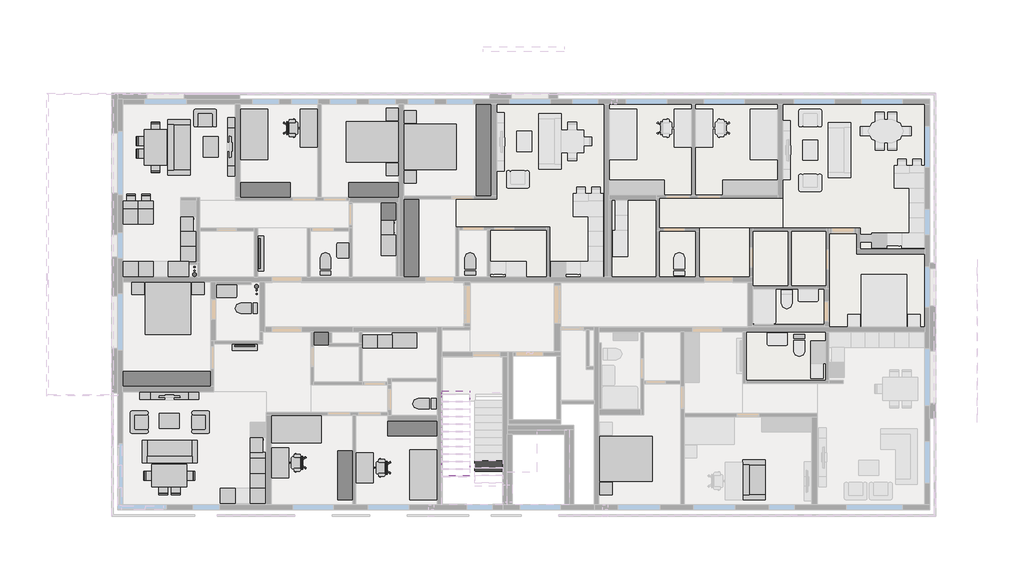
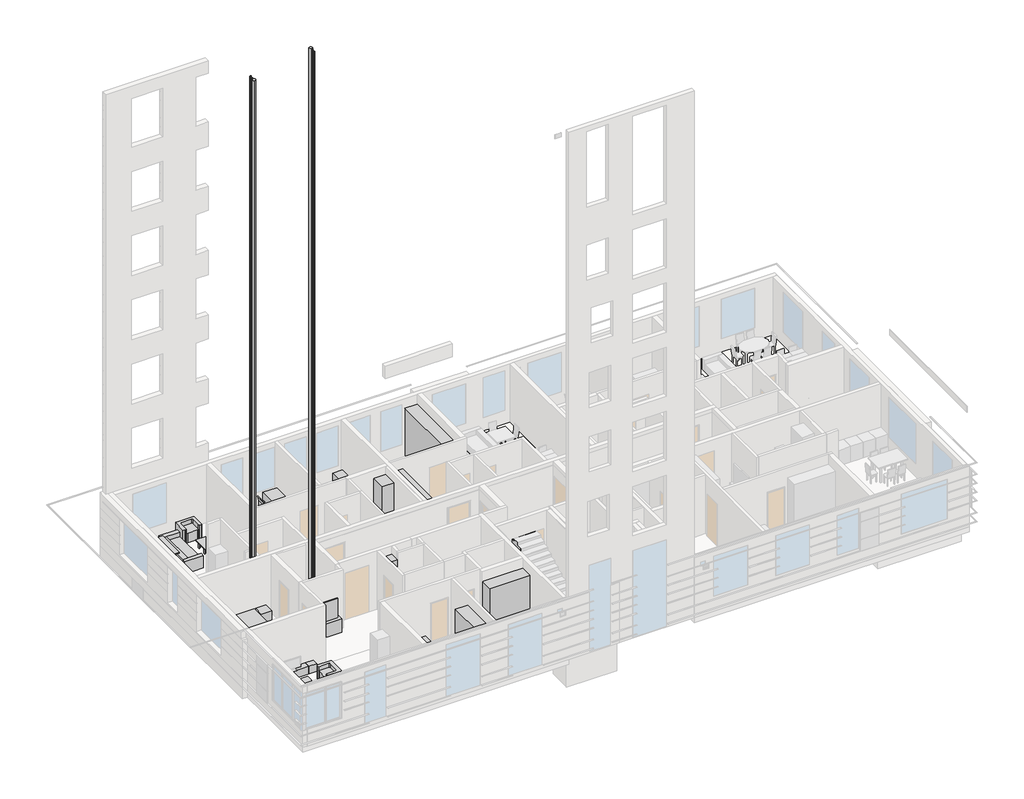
# One storey, part 9 of 11: 65 furniture elements, 17 flow terminals, 14 slabs, 2 beams.
"""IFC4 building model written with IfcOpenShell, lengths in millimetres."""

from ifc_helpers import new_model, si_unit, frame, origin, place, context, project, spatial, polyline, outline, extrude, faceted_brep, transform, mapped, element, save
from components import flow_terminal_9331744f, flow_terminal_5cad07d8, flow_terminal_b259daf1, flow_terminal_e0b5edaf, flow_terminal_e84ad2cf, flow_terminal_600x500_31c47412, flow_terminal_600x500_61b906ce, flow_terminal_600x500_6241dcfe, flow_terminal_600x600_aff60e7d, flow_terminal_600x600_852fcc23, flow_terminal_600x600_098c5d3b, flow_terminal_800x500_2e84b328, furniture_04e13bb0, furniture_0a480fd8, furniture_270331d1, furniture_84748105, furniture_1d6a48cf, furniture_af5cb44b, furniture_a4c6fd55, furniture_1200x700_3ee393f8, furniture_1200x700_5fdb5f68, furniture_1500x700_44764a8b, furniture_1600_cdebd30f, furniture_2000x900_8549b6ce, furniture_2000x900_58b30379, furniture_2100x1600_cdc592ea, furniture_2100x1800_e54d67c0, furniture_2200_2217fce5, furniture_500x2350_ca4e032f, furniture_900x1400_8099c148, furniture_900x600_407b2405, furniture_900x600_84977c98, chair_43e23103, chair_320c8197, default_57711184, default_7369cba9, default_f6d1d0e9, default_1239a132, default_f057042a, default_3f781dbd, default_6ccb14ad, default_5f957f71, default_1b38eee4, default_7911ea91, default_f59ce116, default_5d1f57f7, default_d962509c

model = new_model("IFC4")

# Units and contexts
model_context = context("Model", 3, world=origin())
ifc_project = project(units=[si_unit("LENGTHUNIT", "METRE", prefix="MILLI")], contexts=[model_context])

# Site, building, storey
site = spatial("IfcSite", under=ifc_project)
building = spatial("IfcBuilding", under=site)
storey = spatial("IfcBuildingStorey", under=building, Name="02_+4,400_Ж", Elevation=1200.0)

# Beams
placement = place(None, origin())
element("IfcBeam", 1, ObjectType="SF_марш монолитный с отделкой_3.4 : UP_300х150", at=placement, inside=storey, context=model_context, shape_type="Brep", body=[
    faceted_brep([(143230.0000002, 112492.2291223, 2620.0), (143230.0000002, 115749.9999987, 991.1145618), (144350.0000002, 115749.9999987, 991.1145618), (144350.0000002, 112492.2291223, 2620.0), (144350.0000002, 112349.9999987, 2620.0), (144350.0000002, 115749.9999987, 1170.0), (144350.0000002, 115749.9999987, 1320.0), (144350.0000002, 115449.9999987, 1320.0), (144350.0000002, 115449.9999987, 1470.0), (144350.0000002, 115149.9999987, 1470.0), (144350.0000002, 115149.9999987, 1620.0), (144350.0000002, 114849.9999987, 1620.0), (144350.0000002, 114849.9999987, 1770.0), (144350.0000002, 114549.9999987, 1770.0), (144350.0000002, 114549.9999987, 1920.0), (144350.0000002, 114249.9999987, 1920.0), (144350.0000002, 114249.9999987, 2070.0), (144350.0000002, 113949.9999987, 2070.0), (144350.0000002, 113949.9999987, 2220.0), (144350.0000002, 113649.9999987, 2220.0), (144350.0000002, 113649.9999987, 2370.0), (144350.0000002, 113349.9999987, 2370.0), (144350.0000002, 113349.9999987, 2520.0), (144350.0000002, 113049.9999987, 2520.0), (144350.0000002, 113049.9999987, 2670.0), (144350.0000002, 112749.9999987, 2670.0), (144350.0000002, 112749.9999987, 2820.0), (144350.0000002, 112449.9999987, 2820.0), (144350.0000002, 112349.9999987, 2820.0), (143230.0000002, 112349.9999987, 2820.0), (143230.0000002, 112449.9999987, 2820.0), (143230.0000002, 112749.9999987, 2820.0), (143230.0000002, 112749.9999987, 2670.0), (143230.0000002, 113049.9999987, 2670.0), (143230.0000002, 113049.9999987, 2520.0), (143230.0000002, 113349.9999987, 2520.0), (143230.0000002, 113349.9999987, 2370.0), (143230.0000002, 113649.9999987, 2370.0), (143230.0000002, 113649.9999987, 2220.0), (143230.0000002, 113949.9999987, 2220.0), (143230.0000002, 113949.9999987, 2070.0), (143230.0000002, 114249.9999987, 2070.0), (143230.0000002, 114249.9999987, 1920.0), (143230.0000002, 114549.9999987, 1920.0), (143230.0000002, 114549.9999987, 1770.0), (143230.0000002, 114849.9999987, 1770.0), (143230.0000002, 114849.9999987, 1620.0), (143230.0000002, 115149.9999987, 1620.0), (143230.0000002, 115149.9999987, 1470.0), (143230.0000002, 115449.9999987, 1470.0), (143230.0000002, 115449.9999987, 1320.0), (143230.0000002, 115749.9999987, 1320.0), (143230.0000002, 115749.9999987, 1170.0), (143230.0000002, 112349.9999987, 2620.0)], [[[0, 1, 2, 3]], [[4, 3, 2, 5, 6, 7, 8, 9, 10, 11, 12, 13, 14, 15, 16, 17, 18, 19, 20, 21, 22, 23, 24, 25, 26, 27, 28]], [[29, 30, 31, 32, 33, 34, 35, 36, 37, 38, 39, 40, 41, 42, 43, 44, 45, 46, 47, 48, 49, 50, 51, 52, 1, 0, 53]], [[3, 4, 53, 0]], [[7, 6, 51, 50]], [[50, 49, 8, 7]], [[49, 48, 9, 8]], [[48, 47, 10, 9]], [[47, 46, 11, 10]], [[46, 45, 12, 11]], [[45, 44, 13, 12]], [[44, 43, 14, 13]], [[43, 42, 15, 14]], [[42, 41, 16, 15]], [[41, 40, 17, 16]], [[40, 39, 18, 17]], [[39, 38, 19, 18]], [[38, 37, 20, 19]], [[37, 36, 21, 20]], [[36, 35, 22, 21]], [[35, 34, 23, 22]], [[34, 33, 24, 23]], [[33, 32, 25, 24]], [[32, 31, 26, 25]], [[28, 27, 26, 31, 30, 29]], [[53, 4, 28, 29]], [[1, 52, 51, 6, 5, 2]]]),
])
element("IfcBeam", 2, ObjectType="SF_марш монолитный с отделкой_3.4 : UP_300х150", at=placement, inside=storey, context=model_context, shape_type="Brep", body=[
    faceted_brep([(141910.0000001, 115867.7708751, 4200.0), (143030.0000001, 115867.7708751, 4200.0), (143030.0000001, 113149.9999987, 2841.1145618), (141910.0000001, 113149.9999987, 2841.1145618), (143030.0000001, 116019.9999987, 4400.0), (143030.0000001, 116019.9999987, 4470.0), (143030.0000001, 115749.9999987, 4470.0), (143030.0000001, 115749.9999987, 4400.0), (143030.0000001, 115749.9999987, 4320.0), (143030.0000001, 115449.9999987, 4320.0), (143030.0000001, 115449.9999987, 4170.0), (143030.0000001, 115149.9999987, 4170.0), (143030.0000001, 115149.9999987, 4020.0), (143030.0000001, 114849.9999987, 4020.0), (143030.0000001, 114849.9999987, 3870.0), (143030.0000001, 114549.9999987, 3870.0), (143030.0000001, 114549.9999987, 3720.0), (143030.0000001, 114249.9999987, 3720.0), (143030.0000001, 114249.9999987, 3570.0), (143030.0000001, 113949.9999987, 3570.0), (143030.0000001, 113949.9999987, 3420.0), (143030.0000001, 113649.9999987, 3420.0), (143030.0000001, 113649.9999987, 3270.0), (143030.0000001, 113349.9999987, 3270.0), (143030.0000001, 113349.9999987, 3120.0), (143030.0000001, 113049.9999987, 3120.0), (143030.0000001, 113049.9999987, 2970.0), (143030.0000001, 112749.9999987, 2970.0), (143030.0000001, 112749.9999987, 2820.0), (143030.0000001, 112749.9999987, 2620.0), (143030.0000001, 113149.9999987, 2620.0), (143030.0000001, 116149.9999987, 4200.0), (143030.0000001, 116149.9999987, 4400.0), (141910.0000001, 116019.9999987, 4470.0), (141910.0000001, 116019.9999987, 4400.0), (141910.0000001, 116149.9999987, 4400.0), (141910.0000001, 116149.9999987, 4200.0), (141910.0000001, 113149.9999987, 2620.0), (141910.0000001, 112749.9999987, 2620.0), (141910.0000001, 112749.9999987, 2820.0), (141910.0000001, 112749.9999987, 2970.0), (141910.0000001, 113049.9999987, 2970.0), (141910.0000001, 113049.9999987, 3120.0), (141910.0000001, 113349.9999987, 3120.0), (141910.0000001, 113349.9999987, 3270.0), (141910.0000001, 113649.9999987, 3270.0), (141910.0000001, 113649.9999987, 3420.0), (141910.0000001, 113949.9999987, 3420.0), (141910.0000001, 113949.9999987, 3570.0), (141910.0000001, 114249.9999987, 3570.0), (141910.0000001, 114249.9999987, 3720.0), (141910.0000001, 114549.9999987, 3720.0), (141910.0000001, 114549.9999987, 3870.0), (141910.0000001, 114849.9999987, 3870.0), (141910.0000001, 114849.9999987, 4020.0), (141910.0000001, 115149.9999987, 4020.0), (141910.0000001, 115149.9999987, 4170.0), (141910.0000001, 115449.9999987, 4170.0), (141910.0000001, 115449.9999987, 4320.0), (141910.0000001, 115749.9999987, 4320.0), (141910.0000001, 115749.9999987, 4470.0)], [[[0, 1, 2, 3]], [[4, 5, 6, 7, 8, 9, 10, 11, 12, 13, 14, 15, 16, 17, 18, 19, 20, 21, 22, 23, 24, 25, 26, 27, 28, 29, 30, 2, 1, 31, 32]], [[33, 34, 35, 36, 0, 3, 37, 38, 39, 40, 41, 42, 43, 44, 45, 46, 47, 48, 49, 50, 51, 52, 53, 54, 55, 56, 57, 58, 59, 60]], [[1, 0, 36, 31]], [[26, 41, 40, 27]], [[41, 26, 25, 42]], [[42, 25, 24, 43]], [[43, 24, 23, 44]], [[44, 23, 22, 45]], [[45, 22, 21, 46]], [[46, 21, 20, 47]], [[47, 20, 19, 48]], [[48, 19, 18, 49]], [[49, 18, 17, 50]], [[50, 17, 16, 51]], [[51, 16, 15, 52]], [[52, 15, 14, 53]], [[53, 14, 13, 54]], [[54, 13, 12, 55]], [[55, 12, 11, 56]], [[56, 11, 10, 57]], [[57, 10, 9, 58]], [[58, 9, 8, 59]], [[59, 8, 7, 6, 60]], [[37, 30, 29, 38]], [[5, 33, 60, 6]], [[36, 35, 32, 31]], [[30, 37, 3, 2]], [[34, 4, 32, 35]], [[5, 4, 34, 33]], [[38, 29, 28, 27, 40, 39]]]),
])

# Flow terminals
flow_terminal_shape = flow_terminal_9331744f(model_context)
element("IfcFlowTerminal", 3, ObjectType="SP_унитаз подвесной : SP_унитаз подвесной", at=placement, inside=storey, context=model_context, shape_type="MappedRepresentation", body=[
    mapped(flow_terminal_shape, transform((143040.0000001, 121029.9999987, 1200.0), x_axis=(1.0, 0.0, 0.0), y_axis=(0.0, 1.0, 0.0), z_axis=(0.0, 0.0, 1.0))),
])
element("IfcFlowTerminal", 4, ObjectType="SP_унитаз подвесной : SP_унитаз подвесной", at=placement, inside=storey, context=model_context, shape_type="MappedRepresentation", body=[
    mapped(flow_terminal_shape, transform((137265.0000001, 121029.9999987, 1200.0), x_axis=(1.0, 0.0, 0.0), y_axis=(0.0, 1.0, 0.0), z_axis=(0.0, 0.0, 1.0))),
])
flow_terminal_2_shape = flow_terminal_5cad07d8(model_context)
element("IfcFlowTerminal", 5, ObjectType="SP_унитаз подвесной : SP_унитаз подвесной", at=placement, inside=storey, context=model_context, shape_type="MappedRepresentation", body=[
    mapped(flow_terminal_2_shape, transform((141400.0000001, 115639.9999987, 1200.0), x_axis=(0.0, 1.0, 0.0), y_axis=(-1.0, 0.0, 0.0), z_axis=(0.0, 0.0, 1.0))),
])
flow_terminal_3_shape = flow_terminal_b259daf1(model_context)
element("IfcFlowTerminal", 6, ObjectType="SP_унитаз подвесной : SP_унитаз подвесной", at=placement, inside=storey, context=model_context, shape_type="MappedRepresentation", body=[
    mapped(flow_terminal_3_shape, transform((134310.0000001, 119449.9999987, 1200.0), x_axis=(0.0, 1.0, 0.0), y_axis=(-1.0, 0.0, 0.0), z_axis=(0.0, 0.0, 1.0))),
])
flow_terminal_4_shape = flow_terminal_e0b5edaf(model_context)
element("IfcFlowTerminal", 7, ObjectType="SP_Стояки : ГВ,ХВ,К", at=placement, inside=storey, context=model_context, shape_type="MappedRepresentation", body=[
    mapped(flow_terminal_4_shape, transform((132154.7596687, 120699.9999987, 0.0), x_axis=(0.0, 1.0, 0.0), y_axis=(-1.0, 0.0, 0.0), z_axis=(0.0, 0.0, 1.0))),
])
flow_terminal_5_shape = flow_terminal_e84ad2cf(model_context)
element("IfcFlowTerminal", 8, ObjectType="SP_Стояки : ГВ,ХВ,К", at=placement, inside=storey, context=model_context, shape_type="MappedRepresentation", body=[
    mapped(flow_terminal_5_shape, transform((134395.2403316, 120424.9999987, 0.0), x_axis=(0.0, -1.0, 0.0), y_axis=(1.0, 0.0, 0.0), z_axis=(0.0, 0.0, 1.0))),
])
flow_terminal_600x500_shape = flow_terminal_600x500_31c47412(model_context)
element("IfcFlowTerminal", 9, ObjectType="SP_раковина_LEG_настраиваемая : 600x500", at=placement, inside=storey, context=model_context, shape_type="MappedRepresentation", body=[
    mapped(flow_terminal_600x500_shape, transform((140417.5000001, 118474.9999987, 1200.0), x_axis=(1.0, 0.0, 0.0), y_axis=(0.0, 1.0, 0.0), z_axis=(0.0, 0.0, 1.0))),
])
flow_terminal_600x500_2_shape = flow_terminal_600x500_61b906ce(model_context)
element("IfcFlowTerminal", 10, ObjectType="SP_раковина_LEG_настраиваемая : 600x500", at=placement, inside=storey, context=model_context, shape_type="MappedRepresentation", body=[
    mapped(flow_terminal_600x500_2_shape, transform((140090.0000001, 121959.7442441, 1200.0), x_axis=(0.0, -1.0, 0.0), y_axis=(1.0, 0.0, 0.0), z_axis=(0.0, 0.0, 1.0))),
])
flow_terminal_600x500_3_shape = flow_terminal_600x500_6241dcfe(model_context)
element("IfcFlowTerminal", 11, ObjectType="SP_раковина_LEG : 600x500", at=placement, inside=storey, context=model_context, shape_type="MappedRepresentation", body=[
    mapped(flow_terminal_600x500_3_shape, transform((138215.0000001, 121766.833932, 1200.0), x_axis=(0.0, -1.0, 0.0), y_axis=(1.0, 0.0, 0.0), z_axis=(0.0, 0.0, 1.0))),
])
flow_terminal_600x600_shape = flow_terminal_600x600_aff60e7d(model_context)
element("IfcFlowTerminal", 12, ObjectType="SP_раковина кухонная_LEG : 600x600", at=placement, inside=storey, context=model_context, shape_type="MappedRepresentation", body=[
    mapped(flow_terminal_600x600_shape, transform((132085.0000001, 121924.9999987, 1200.0), x_axis=(0.0, -1.0, 0.0), y_axis=(1.0, 0.0, 0.0), z_axis=(0.0, 0.0, 1.0))),
])
element("IfcFlowTerminal", 13, ObjectType="SP_раковина кухонная_LEG : 600x600", at=placement, inside=storey, context=model_context, shape_type="MappedRepresentation", body=[
    mapped(flow_terminal_600x600_shape, transform((134865.0000001, 112851.5441709, 1200.0), x_axis=(0.0, -1.0, 0.0), y_axis=(1.0, 0.0, 0.0), z_axis=(0.0, 0.0, 1.0))),
])
flow_terminal_600x600_2_shape = flow_terminal_600x600_852fcc23(model_context)
element("IfcFlowTerminal", 14, ObjectType="SP_стиральная машина_LEG : 600x600", at=placement, inside=storey, context=model_context, shape_type="MappedRepresentation", body=[
    mapped(flow_terminal_600x600_2_shape, transform((139030.0000001, 118474.9999987, 1200.0), x_axis=(-1.0, 0.0, 0.0), y_axis=(0.0, -1.0, 0.0), z_axis=(0.0, 0.0, 1.0))),
])
element("IfcFlowTerminal", 15, ObjectType="SP_стиральная машина_LEG : 600x600", at=placement, inside=storey, context=model_context, shape_type="MappedRepresentation", body=[
    mapped(flow_terminal_600x600_2_shape, transform((139630.0000001, 118474.9999987, 1200.0), x_axis=(-1.0, 0.0, 0.0), y_axis=(0.0, -1.0, 0.0), z_axis=(0.0, 0.0, 1.0))),
])
element("IfcFlowTerminal", 16, ObjectType="SP_стиральная машина_LEG : 600x600", at=placement, inside=storey, context=model_context, shape_type="MappedRepresentation", body=[
    mapped(flow_terminal_600x600_2_shape, transform((140090.0000001, 122669.9999987, 1200.0), x_axis=(0.0, 1.0, 0.0), y_axis=(-1.0, 0.0, 0.0), z_axis=(0.0, 0.0, 1.0))),
])
flow_terminal_600x600_3_shape = flow_terminal_600x600_098c5d3b(model_context)
element("IfcFlowTerminal", 17, ObjectType="SP_посудомоечная машина_LEG : 600x600", at=placement, inside=storey, context=model_context, shape_type="MappedRepresentation", body=[
    mapped(flow_terminal_600x600_3_shape, transform((132085.0000001, 122824.9999987, 1200.0), x_axis=(0.0, 1.0, 0.0), y_axis=(-1.0, 0.0, 0.0), z_axis=(0.0, 0.0, 1.0))),
])
element("IfcFlowTerminal", 18, ObjectType="SP_посудомоечная машина_LEG : 600x600", at=placement, inside=storey, context=model_context, shape_type="MappedRepresentation", body=[
    mapped(flow_terminal_600x600_3_shape, transform((134865.0000001, 113999.9999987, 1200.0), x_axis=(0.0, 1.0, 0.0), y_axis=(-1.0, 0.0, 0.0), z_axis=(0.0, 0.0, 1.0))),
])
flow_terminal_800x500_shape = flow_terminal_800x500_2e84b328(model_context)
element("IfcFlowTerminal", 19, ObjectType="SP_раковина_LEG : 800x500", at=placement, inside=storey, context=model_context, shape_type="MappedRepresentation", body=[
    mapped(flow_terminal_800x500_shape, transform((133315.0000001, 120374.9999987, 1200.0), x_axis=(1.0, 0.0, 0.0), y_axis=(0.0, 1.0, 0.0), z_axis=(0.0, 0.0, 1.0))),
])

# Furniture
furniture_shape = furniture_04e13bb0(model_context)
element("IfcFurniture", 20, ObjectType="Fu_журнальный_столик_прямоугольный_LEG : 600Х800", at=placement, inside=storey, context=model_context, shape_type="MappedRepresentation", body=[
    mapped(furniture_shape, transform((131035.0000001, 115504.9999987, 1200.0), x_axis=(0.0, 1.0, 0.0), y_axis=(-1.0, 0.0, 0.0), z_axis=(0.0, 0.0, 1.0))),
])
element("IfcFurniture", 21, ObjectType="Fu_журнальный_столик_прямоугольный_LEG : 600Х800", at=placement, inside=storey, context=model_context, shape_type="MappedRepresentation", body=[
    mapped(furniture_shape, transform((133230.0000001, 125899.9999987, 1200.0), x_axis=(1.0, 0.0, 0.0), y_axis=(0.0, 1.0, 0.0), z_axis=(0.0, 0.0, 1.0))),
])
furniture_2_shape = furniture_0a480fd8(model_context)
element("IfcFurniture", 22, ObjectType="Fu_трюмо_LEG : 1400Х250", at=placement, inside=storey, context=model_context, shape_type="MappedRepresentation", body=[
    mapped(furniture_2_shape, transform((134555.0000001, 122339.9999987, 1200.0), x_axis=(0.0, -1.0, 0.0), y_axis=(1.0, 0.0, 0.0), z_axis=(0.0, 0.0, 1.0))),
])
furniture_3_shape = furniture_270331d1(model_context)
element("IfcFurniture", 23, ObjectType="Fu_шкаф 1-с : Шкаф 1-створчатый", at=placement, inside=storey, context=model_context, shape_type="MappedRepresentation", body=[
    mapped(furniture_3_shape, transform((139490.0000001, 122969.9999987, 1200.0), x_axis=(1.0, 0.0, 0.0), y_axis=(0.0, 1.0, 0.0), z_axis=(0.0, 0.0, 1.0))),
])
furniture_4_shape = furniture_84748105(model_context)
element("IfcFurniture", 24, ObjectType="Fu_трюмо_LEG : 1000Х250", at=placement, inside=storey, context=model_context, shape_type="MappedRepresentation", body=[
    mapped(furniture_4_shape, transform((133540.0000001, 118024.9999987, 1200.0), x_axis=(1.0, 0.0, 0.0), y_axis=(0.0, 1.0, 0.0), z_axis=(0.0, 0.0, 1.0))),
])
furniture_5_shape = furniture_1d6a48cf(model_context)
element("IfcFurniture", 25, ObjectType="Fu_шкаф 1-с : Шкаф 1-створчатый", at=placement, inside=storey, context=model_context, shape_type="MappedRepresentation", body=[
    mapped(furniture_5_shape, transform((136805.0000001, 118479.9999987, 1200.0), x_axis=(1.0, 0.0, 0.0), y_axis=(0.0, 1.0, 0.0), z_axis=(0.0, 0.0, 1.0))),
])
furniture_6_shape = furniture_af5cb44b(model_context)
element("IfcFurniture", 26, ObjectType="Fu_тумба прикроватная_LEG : 500х500", at=placement, inside=storey, context=model_context, shape_type="MappedRepresentation", body=[
    mapped(furniture_6_shape, transform((132180.0000001, 120249.9999987, 1200.0), x_axis=(1.0, 0.0, 0.0), y_axis=(0.0, 1.0, 0.0), z_axis=(0.0, 0.0, 1.0))),
])
element("IfcFurniture", 27, ObjectType="Fu_тумба прикроватная_LEG : 500х500", at=placement, inside=storey, context=model_context, shape_type="MappedRepresentation", body=[
    mapped(furniture_6_shape, transform((139940.0000001, 124999.9999987, 1200.0), x_axis=(0.0, -1.0, 0.0), y_axis=(1.0, 0.0, 0.0), z_axis=(0.0, 0.0, 1.0))),
])
element("IfcFurniture", 28, ObjectType="Fu_тумба прикроватная_LEG : 500х500", at=placement, inside=storey, context=model_context, shape_type="MappedRepresentation", body=[
    mapped(furniture_6_shape, transform((140640.0000001, 127099.9999987, 1200.0), x_axis=(0.0, 1.0, 0.0), y_axis=(-1.0, 0.0, 0.0), z_axis=(0.0, 0.0, 1.0))),
])
furniture_7_shape = furniture_a4c6fd55(model_context)
element("IfcFurniture", 29, ObjectType="Fu_тумба прикроватная_LEG : 500х500", at=placement, inside=storey, context=model_context, shape_type="MappedRepresentation", body=[
    mapped(furniture_7_shape, transform((129780.0000001, 120249.9999987, 1200.0), x_axis=(-1.0, 0.0, 0.0), y_axis=(0.0, -1.0, 0.0), z_axis=(0.0, 0.0, 1.0))),
])
element("IfcFurniture", 30, ObjectType="Fu_тумба прикроватная_LEG : 500х500", at=placement, inside=storey, context=model_context, shape_type="MappedRepresentation", body=[
    mapped(furniture_7_shape, transform((139940.0000001, 127199.9999987, 1200.0), x_axis=(0.0, 1.0, 0.0), y_axis=(-1.0, 0.0, 0.0), z_axis=(0.0, 0.0, 1.0))),
])
element("IfcFurniture", 31, ObjectType="Fu_тумба прикроватная_LEG : 500х500", at=placement, inside=storey, context=model_context, shape_type="MappedRepresentation", body=[
    mapped(furniture_7_shape, transform((140640.0000001, 124699.9999987, 1200.0), x_axis=(0.0, -1.0, 0.0), y_axis=(1.0, 0.0, 0.0), z_axis=(0.0, 0.0, 1.0))),
])
element("IfcFurniture", 32, ObjectType="Fu_тумба прикроватная_LEG : 500х500", at=placement, inside=storey, context=model_context, shape_type="MappedRepresentation", body=[
    mapped(furniture_7_shape, transform((148460.0000001, 112239.9999987, 1200.0), x_axis=(0.0, -1.0, 0.0), y_axis=(1.0, 0.0, 0.0), z_axis=(0.0, 0.0, 1.0))),
])
furniture_1200x700_shape = furniture_1200x700_3ee393f8(model_context)
element("IfcFurniture", 33, ObjectType="Fu_стол рабочий : 1200x700", at=placement, inside=storey, context=model_context, shape_type="MappedRepresentation", body=[
    mapped(furniture_1200x700_shape, transform((136721.7939625, 113506.5981067, 1200.0), x_axis=(0.0, 1.0, 0.0), y_axis=(-1.0, 0.0, 0.0), z_axis=(0.0, 0.0, 1.0))),
])
furniture_1200x700_2_shape = furniture_1200x700_5fdb5f68(model_context)
element("IfcFurniture", 34, ObjectType="Fu_стол рабочий : 1200x700", at=placement, inside=storey, context=model_context, shape_type="MappedRepresentation", body=[
    mapped(furniture_1200x700_2_shape, transform((140096.7939625, 112854.0365854, 1200.0), x_axis=(0.0, -1.0, 0.0), y_axis=(1.0, 0.0, 0.0), z_axis=(0.0, 0.0, 1.0))),
])
furniture_1500x700_shape = furniture_1500x700_44764a8b(model_context)
element("IfcFurniture", 35, ObjectType="Fu_стол рабочий : 1500x700", at=placement, inside=storey, context=model_context, shape_type="MappedRepresentation", body=[
    mapped(furniture_1500x700_shape, transform((135348.2060378, 126423.4018907, 1200.0), x_axis=(0.0, -1.0, 0.0), y_axis=(1.0, 0.0, 0.0), z_axis=(0.0, 0.0, 1.0))),
])
furniture_1600_shape = furniture_1600_cdebd30f(model_context)
element("IfcFurniture", 36, ObjectType="Fu_диван_LEG : 1600", at=placement, inside=storey, context=model_context, shape_type="MappedRepresentation", body=[
    mapped(furniture_1600_shape, transform((154843.7770493, 111726.6262282, 1200.0), x_axis=(0.0, 1.0, 0.0), y_axis=(-1.0, 0.0, 0.0), z_axis=(0.0, 0.0, 1.0))),
])
furniture_2000x900_shape = furniture_2000x900_8549b6ce(model_context)
element("IfcFurniture", 37, ObjectType="Fu_кровать x1_LEG : 2000x900", at=placement, inside=storey, context=model_context, shape_type="MappedRepresentation", body=[
    mapped(furniture_2000x900_shape, transform((141630.0000001, 112565.5704905, 1200.0), x_axis=(1.0, 0.0, 0.0), y_axis=(0.0, 1.0, 0.0), z_axis=(0.0, 0.0, 1.0))),
])
element("IfcFurniture", 38, ObjectType="Fu_кровать x1_LEG : 2000x900", at=placement, inside=storey, context=model_context, shape_type="MappedRepresentation", body=[
    mapped(furniture_2000x900_shape, transform((133965.0000001, 126634.4295069, 1200.0), x_axis=(-1.0, 0.0, 0.0), y_axis=(0.0, -1.0, 0.0), z_axis=(0.0, 0.0, 1.0))),
])
furniture_2000x900_2_shape = furniture_2000x900_58b30379(model_context)
element("IfcFurniture", 39, ObjectType="Fu_кровать x1_LEG : 2000x900", at=placement, inside=storey, context=model_context, shape_type="MappedRepresentation", body=[
    mapped(furniture_2000x900_2_shape, transform((135870.570492, 115079.9999987, 1200.0), x_axis=(0.0, 1.0, 0.0), y_axis=(-1.0, 0.0, 0.0), z_axis=(0.0, 0.0, 1.0))),
])
furniture_2100x1600_shape = furniture_2100x1600_cdc592ea(model_context)
element("IfcFurniture", 40, ObjectType="Fu_кровать x2_LEG : 2100x1600", at=placement, inside=storey, context=model_context, shape_type="MappedRepresentation", body=[
    mapped(furniture_2100x1600_shape, transform((139374.4295083, 126099.9999987, 1200.0), x_axis=(0.0, -1.0, 0.0), y_axis=(1.0, 0.0, 0.0), z_axis=(0.0, 0.0, 1.0))),
])
furniture_2100x1800_shape = furniture_2100x1800_e54d67c0(model_context)
element("IfcFurniture", 41, ObjectType="Fu_кровать x2_LEG : 2100x1800", at=placement, inside=storey, context=model_context, shape_type="MappedRepresentation", body=[
    mapped(furniture_2100x1800_shape, transform((130980.0000001, 119684.4295069, 1200.0), x_axis=(1.0, 0.0, 0.0), y_axis=(0.0, 1.0, 0.0), z_axis=(0.0, 0.0, 1.0))),
])
element("IfcFurniture", 42, ObjectType="Fu_кровать x2_LEG : 2100x1800", at=placement, inside=storey, context=model_context, shape_type="MappedRepresentation", body=[
    mapped(furniture_2100x1800_shape, transform((141205.5704919, 125899.9999987, 1200.0), x_axis=(0.0, 1.0, 0.0), y_axis=(-1.0, 0.0, 0.0), z_axis=(0.0, 0.0, 1.0))),
])
element("IfcFurniture", 43, ObjectType="Fu_кровать x2_LEG : 2100x1800", at=placement, inside=storey, context=model_context, shape_type="MappedRepresentation", body=[
    mapped(furniture_2100x1800_shape, transform((149025.570492, 113439.9999987, 1200.0), x_axis=(0.0, 1.0, 0.0), y_axis=(-1.0, 0.0, 0.0), z_axis=(0.0, 0.0, 1.0))),
])
furniture_2200_shape = furniture_2200_2217fce5(model_context)
element("IfcFurniture", 44, ObjectType="Fu_диван_LEG : 2200", at=placement, inside=storey, context=model_context, shape_type="MappedRepresentation", body=[
    mapped(furniture_2200_shape, transform((131928.3737706, 114196.7770479, 1200.0), x_axis=(-1.0, 0.0, 0.0), y_axis=(0.0, -1.0, 0.0), z_axis=(0.0, 0.0, 1.0))),
])
element("IfcFurniture", 45, ObjectType="Fu_диван_LEG : 2200", at=placement, inside=storey, context=model_context, shape_type="MappedRepresentation", body=[
    mapped(furniture_2200_shape, transform((131884.2770493, 125006.6262282, 1200.0), x_axis=(0.0, 1.0, 0.0), y_axis=(-1.0, 0.0, 0.0), z_axis=(0.0, 0.0, 1.0))),
])
furniture_500x2350_shape = furniture_500x2350_ca4e032f(model_context)
element("IfcFurniture", 46, ObjectType="Fu_TV+тумба_LEG : 500x2350", at=placement, inside=storey, context=model_context, shape_type="MappedRepresentation", body=[
    mapped(furniture_500x2350_shape, transform((131261.5981081, 115198.2229495, 1200.0), x_axis=(1.0, 0.0, 0.0), y_axis=(0.0, 1.0, 0.0), z_axis=(0.0, 0.0, 1.0))),
])
element("IfcFurniture", 47, ObjectType="Fu_TV+тумба_LEG : 500x2350", at=placement, inside=storey, context=model_context, shape_type="MappedRepresentation", body=[
    mapped(furniture_500x2350_shape, transform((132743.222951, 125673.4018907, 1200.0), x_axis=(0.0, -1.0, 0.0), y_axis=(1.0, 0.0, 0.0), z_axis=(0.0, 0.0, 1.0))),
])
furniture_900x1400_shape = furniture_900x1400_8099c148(model_context)
element("IfcFurniture", 48, ObjectType="Fu_кухонный стол_LEG : 900x1400", at=placement, inside=storey, context=model_context, shape_type="MappedRepresentation", body=[
    mapped(furniture_900x1400_shape, transform((130736.171258, 112760.2677148, 1200.0), x_axis=(-1.0, 0.0, 0.0), y_axis=(0.0, -1.0, 0.0), z_axis=(0.0, 0.0, 1.0))),
])
element("IfcFurniture", 49, ObjectType="Fu_кухонный стол_LEG : 900x1400", at=placement, inside=storey, context=model_context, shape_type="MappedRepresentation", body=[
    mapped(furniture_900x1400_shape, transform((130480.0000001, 126179.9999987, 1200.0), x_axis=(0.0, 1.0, 0.0), y_axis=(-1.0, 0.0, 0.0), z_axis=(0.0, 0.0, 1.0))),
])
furniture_900x600_shape = furniture_900x600_407b2405(model_context)
element("IfcFurniture", 50, ObjectType="Fu_кресло_большое_LEG : 900x600", at=placement, inside=storey, context=model_context, shape_type="MappedRepresentation", body=[
    mapped(furniture_900x600_shape, transform((132080.0736389, 115014.2999987, 1200.0), x_axis=(0.0, -1.0, 0.0), y_axis=(1.0, 0.0, 0.0), z_axis=(0.0, 0.0, 1.0))),
])
element("IfcFurniture", 51, ObjectType="Fu_кресло_большое_LEG : 900x600", at=placement, inside=storey, context=model_context, shape_type="MappedRepresentation", body=[
    mapped(furniture_900x600_shape, transform((132345.7000001, 126850.0736374, 1200.0), x_axis=(1.0, 0.0, 0.0), y_axis=(0.0, 1.0, 0.0), z_axis=(0.0, 0.0, 1.0))),
])
furniture_900x600_2_shape = furniture_900x600_84977c98(model_context)
element("IfcFurniture", 52, ObjectType="Fu_кресло_большое_LEG : 900x600", at=placement, inside=storey, context=model_context, shape_type="MappedRepresentation", body=[
    mapped(furniture_900x600_2_shape, transform((130029.9263614, 115014.2999987, 1200.0), x_axis=(0.0, -1.0, 0.0), y_axis=(1.0, 0.0, 0.0), z_axis=(0.0, 0.0, 1.0))),
])
chair_shape = chair_43e23103(model_context)
element("IfcFurniture", 53, ObjectType="Fu_стул_LEG : chair", at=placement, inside=storey, context=model_context, shape_type="MappedRepresentation", body=[
    mapped(chair_shape, transform((131872.6897722, 112732.0677148, 1200.0), x_axis=(0.0, -1.0, 0.0), y_axis=(1.0, 0.0, 0.0), z_axis=(0.0, 0.0, 1.0))),
])
element("IfcFurniture", 54, ObjectType="Fu_стул_LEG : chair", at=placement, inside=storey, context=model_context, shape_type="MappedRepresentation", body=[
    mapped(chair_shape, transform((131257.971258, 112173.7492006, 1200.0), x_axis=(-1.0, 0.0, 0.0), y_axis=(0.0, -1.0, 0.0), z_axis=(0.0, 0.0, 1.0))),
])
element("IfcFurniture", 55, ObjectType="Fu_стул_LEG : chair", at=placement, inside=storey, context=model_context, shape_type="MappedRepresentation", body=[
    mapped(chair_shape, transform((130757.971258, 112173.7492006, 1200.0), x_axis=(-1.0, 0.0, 0.0), y_axis=(0.0, -1.0, 0.0), z_axis=(0.0, 0.0, 1.0))),
])
element("IfcFurniture", 56, ObjectType="Fu_стул_LEG : chair", at=placement, inside=storey, context=model_context, shape_type="MappedRepresentation", body=[
    mapped(chair_shape, transform((130451.8000001, 125043.4814846, 1200.0), x_axis=(-1.0, 0.0, 0.0), y_axis=(0.0, -1.0, 0.0), z_axis=(0.0, 0.0, 1.0))),
])
element("IfcFurniture", 57, ObjectType="Fu_стул_LEG : chair", at=placement, inside=storey, context=model_context, shape_type="MappedRepresentation", body=[
    mapped(chair_shape, transform((129893.481486, 125658.1999987, 1200.0), x_axis=(0.0, 1.0, 0.0), y_axis=(-1.0, 0.0, 0.0), z_axis=(0.0, 0.0, 1.0))),
])
element("IfcFurniture", 58, ObjectType="Fu_стул_LEG : chair", at=placement, inside=storey, context=model_context, shape_type="MappedRepresentation", body=[
    mapped(chair_shape, transform((129893.481486, 126158.1999987, 1200.0), x_axis=(0.0, 1.0, 0.0), y_axis=(-1.0, 0.0, 0.0), z_axis=(0.0, 0.0, 1.0))),
])
chair_2_shape = chair_320c8197(model_context)
element("IfcFurniture", 59, ObjectType="Fu_стул_LEG : chair", at=placement, inside=storey, context=model_context, shape_type="MappedRepresentation", body=[
    mapped(chair_2_shape, transform((130199.6527439, 112732.0677148, 1200.0), x_axis=(0.0, -1.0, 0.0), y_axis=(1.0, 0.0, 0.0), z_axis=(0.0, 0.0, 1.0))),
])
element("IfcFurniture", 60, ObjectType="Fu_стул_LEG : chair", at=placement, inside=storey, context=model_context, shape_type="MappedRepresentation", body=[
    mapped(chair_2_shape, transform((129471.8000001, 123834.9999987, 1200.0), x_axis=(-1.0, 0.0, 0.0), y_axis=(0.0, -1.0, 0.0), z_axis=(0.0, 0.0, 1.0))),
])
element("IfcFurniture", 61, ObjectType="Fu_стул_LEG : chair", at=placement, inside=storey, context=model_context, shape_type="MappedRepresentation", body=[
    mapped(chair_2_shape, transform((130071.8000001, 123834.9999987, 1200.0), x_axis=(-1.0, 0.0, 0.0), y_axis=(0.0, -1.0, 0.0), z_axis=(0.0, 0.0, 1.0))),
])
element("IfcFurniture", 62, ObjectType="Fu_стул_LEG : chair", at=placement, inside=storey, context=model_context, shape_type="MappedRepresentation", body=[
    mapped(chair_2_shape, transform((130451.8000001, 126716.5185128, 1200.0), x_axis=(-1.0, 0.0, 0.0), y_axis=(0.0, -1.0, 0.0), z_axis=(0.0, 0.0, 1.0))),
])
default_shape = default_57711184(model_context)
element("IfcFurniture", 63, ObjectType="Fu_кресло офисное_LEG : default", at=placement, inside=storey, context=model_context, shape_type="MappedRepresentation", body=[
    mapped(default_shape, transform((139373.7735686, 112966.3346934, 1200.0), x_axis=(0.0, 1.0, 0.0), y_axis=(-1.0, 0.0, 0.0), z_axis=(0.0, 0.0, 1.0))),
])
default_2_shape = default_7369cba9(model_context)
element("IfcFurniture", 64, ObjectType="Fu_кухонный напольный модуль_LEG : default", at=placement, inside=storey, context=model_context, shape_type="MappedRepresentation", body=[
    mapped(default_2_shape, transform((129197.5000001, 121324.9999987, 1200.0), x_axis=(1.0, 0.0, 0.0), y_axis=(0.0, 1.0, 0.0), z_axis=(0.0, 0.0, 1.0))),
])
element("IfcFurniture", 65, ObjectType="Fu_кухонный напольный модуль_LEG : default", at=placement, inside=storey, context=model_context, shape_type="MappedRepresentation", body=[
    mapped(default_2_shape, transform((129797.5000001, 121324.9999987, 1200.0), x_axis=(1.0, 0.0, 0.0), y_axis=(0.0, 1.0, 0.0), z_axis=(0.0, 0.0, 1.0))),
])
element("IfcFurniture", 66, ObjectType="Fu_кухонный напольный модуль_LEG : default", at=placement, inside=storey, context=model_context, shape_type="MappedRepresentation", body=[
    mapped(default_2_shape, transform((129797.5000001, 122824.9999987, 1200.0), x_axis=(0.0, 1.0, 0.0), y_axis=(-1.0, 0.0, 0.0), z_axis=(0.0, 0.0, 1.0))),
])
element("IfcFurniture", 67, ObjectType="Fu_кухонный напольный модуль_LEG : default", at=placement, inside=storey, context=model_context, shape_type="MappedRepresentation", body=[
    mapped(default_2_shape, transform((129197.5000001, 122824.9999987, 1200.0), x_axis=(0.0, 1.0, 0.0), y_axis=(-1.0, 0.0, 0.0), z_axis=(0.0, 0.0, 1.0))),
])
default_3_shape = default_f6d1d0e9(model_context)
element("IfcFurniture", 68, ObjectType="Fu_кухонный напольный модуль_LEG : default", at=placement, inside=storey, context=model_context, shape_type="MappedRepresentation", body=[
    mapped(default_3_shape, transform((129797.5000001, 123424.9999987, 1200.0), x_axis=(0.0, 1.0, 0.0), y_axis=(-1.0, 0.0, 0.0), z_axis=(0.0, 0.0, 1.0))),
])
element("IfcFurniture", 69, ObjectType="Fu_кухонный напольный модуль_LEG : default", at=placement, inside=storey, context=model_context, shape_type="MappedRepresentation", body=[
    mapped(default_3_shape, transform((129197.5000001, 123424.9999987, 1200.0), x_axis=(0.0, 1.0, 0.0), y_axis=(-1.0, 0.0, 0.0), z_axis=(0.0, 0.0, 1.0))),
])
default_4_shape = default_1239a132(model_context)
element("IfcFurniture", 70, ObjectType="Fu_кухонный напольный модуль_LEG : default", at=placement, inside=storey, context=model_context, shape_type="MappedRepresentation", body=[
    mapped(default_4_shape, transform((134265.0000001, 113701.5441709, 1200.0), x_axis=(0.0, -1.0, 0.0), y_axis=(1.0, 0.0, 0.0), z_axis=(0.0, 0.0, 1.0))),
])
default_5_shape = default_f057042a(model_context)
element("IfcFurniture", 71, ObjectType="Fu_шкаф встроенный_LEG : default", at=placement, inside=storey, context=model_context, shape_type="MappedRepresentation", body=[
    mapped(default_5_shape, transform((139760.0000001, 114954.9999987, 1200.0), x_axis=(1.0, 0.0, 0.0), y_axis=(0.0, 1.0, 0.0), z_axis=(0.0, 0.0, 1.0))),
])
default_6_shape = default_3f781dbd(model_context)
element("IfcFurniture", 72, ObjectType="Fu_шкаф встроенный_LEG : default", at=placement, inside=storey, context=model_context, shape_type="MappedRepresentation", body=[
    mapped(default_6_shape, transform((129180.0000001, 116324.9999987, 1200.0), x_axis=(1.0, 0.0, 0.0), y_axis=(0.0, 1.0, 0.0), z_axis=(0.0, 0.0, 1.0))),
])
default_7_shape = default_6ccb14ad(model_context)
element("IfcFurniture", 73, ObjectType="Fu_шкаф встроенный_LEG : default", at=placement, inside=storey, context=model_context, shape_type="MappedRepresentation", body=[
    mapped(default_7_shape, transform((133865.0000001, 123879.9999987, 1200.0), x_axis=(1.0, 0.0, 0.0), y_axis=(0.0, 1.0, 0.0), z_axis=(0.0, 0.0, 1.0))),
])
element("IfcFurniture", 74, ObjectType="Fu_шкаф встроенный_LEG : default", at=placement, inside=storey, context=model_context, shape_type="MappedRepresentation", body=[
    mapped(default_7_shape, transform((138187.7544697, 123879.9999987, 1200.0), x_axis=(1.0, 0.0, 0.0), y_axis=(0.0, 1.0, 0.0), z_axis=(0.0, 0.0, 1.0))),
])
default_8_shape = default_5f957f71(model_context)
element("IfcFurniture", 75, ObjectType="Fu_шкаф встроенный_LEG : default", at=placement, inside=storey, context=model_context, shape_type="MappedRepresentation", body=[
    mapped(default_8_shape, transform((138355.0000001, 111799.9999987, 1200.0), x_axis=(0.0, 1.0, 0.0), y_axis=(-1.0, 0.0, 0.0), z_axis=(0.0, 0.0, 1.0))),
])
default_9_shape = default_1b38eee4(model_context)
element("IfcFurniture", 76, ObjectType="Fu_шкаф встроенный_LEG : default", at=placement, inside=storey, context=model_context, shape_type="MappedRepresentation", body=[
    mapped(default_9_shape, transform((140390.0000001, 123804.9999987, 1200.0), x_axis=(0.0, -1.0, 0.0), y_axis=(1.0, 0.0, 0.0), z_axis=(0.0, 0.0, 1.0))),
])
default_10_shape = default_7911ea91(model_context)
element("IfcFurniture", 77, ObjectType="Fu_шкаф встроенный_LEG : default", at=placement, inside=storey, context=model_context, shape_type="MappedRepresentation", body=[
    mapped(default_10_shape, transform((143890.0000001, 123929.9999987, 1200.0), x_axis=(0.0, 1.0, 0.0), y_axis=(-1.0, 0.0, 0.0), z_axis=(0.0, 0.0, 1.0))),
])
default_11_shape = default_f59ce116(model_context)
element("IfcFurniture", 78, ObjectType="Fu_кухонный напольный модуль_LEG : default", at=placement, inside=storey, context=model_context, shape_type="MappedRepresentation", body=[
    mapped(default_11_shape, transform((130997.5000001, 121324.9999987, 1200.0), x_axis=(1.0, 0.0, 0.0), y_axis=(0.0, 1.0, 0.0), z_axis=(0.0, 0.0, 1.0))),
])
default_12_shape = default_5d1f57f7(model_context)
element("IfcFurniture", 79, ObjectType="Fu_кухонный напольный модуль_LEG : default", at=placement, inside=storey, context=model_context, shape_type="MappedRepresentation", body=[
    mapped(default_12_shape, transform((131485.0000001, 121924.9999987, 1200.0), x_axis=(0.0, -1.0, 0.0), y_axis=(1.0, 0.0, 0.0), z_axis=(0.0, 0.0, 1.0))),
])
element("IfcFurniture", 80, ObjectType="Fu_кухонный напольный модуль_LEG : default", at=placement, inside=storey, context=model_context, shape_type="MappedRepresentation", body=[
    mapped(default_12_shape, transform((134265.0000001, 112249.9999987, 1200.0), x_axis=(0.0, -1.0, 0.0), y_axis=(1.0, 0.0, 0.0), z_axis=(0.0, 0.0, 1.0))),
])
element("IfcFurniture", 81, ObjectType="Fu_кухонный напольный модуль_LEG : default", at=placement, inside=storey, context=model_context, shape_type="MappedRepresentation", body=[
    mapped(default_12_shape, transform((134265.0000001, 112851.5441709, 1200.0), x_axis=(0.0, -1.0, 0.0), y_axis=(1.0, 0.0, 0.0), z_axis=(0.0, 0.0, 1.0))),
])
element("IfcFurniture", 82, ObjectType="Fu_кухонный напольный модуль_LEG : default", at=placement, inside=storey, context=model_context, shape_type="MappedRepresentation", body=[
    mapped(default_12_shape, transform((133065.0000001, 112249.9999987, 1200.0), x_axis=(0.0, -1.0, 0.0), y_axis=(1.0, 0.0, 0.0), z_axis=(0.0, 0.0, 1.0))),
])
default_13_shape = default_d962509c(model_context)
element("IfcFurniture", 83, ObjectType="Fu_кресло офисное_LEG : default", at=placement, inside=storey, context=model_context, shape_type="MappedRepresentation", body=[
    mapped(default_13_shape, transform((135998.7735686, 113394.2999987, 1200.0), x_axis=(0.0, -1.0, 0.0), y_axis=(1.0, 0.0, 0.0), z_axis=(0.0, 0.0, 1.0))),
])
element("IfcFurniture", 84, ObjectType="Fu_кресло офисное_LEG : default", at=placement, inside=storey, context=model_context, shape_type="MappedRepresentation", body=[
    mapped(default_13_shape, transform((136071.2264317, 126535.6999987, 1200.0), x_axis=(0.0, 1.0, 0.0), y_axis=(-1.0, 0.0, 0.0), z_axis=(0.0, 0.0, 1.0))),
])

# Slabs
element("IfcSlab", 85, ObjectType="FIN_100_Тип 19_Квартиры-------", at=placement, inside=storey, context=model_context, shape_type="Brep", body=[
    faceted_brep([(155730.0000001, 120224.9999987, 1100.0), (154330.0000001, 120224.9999987, 1100.0), (154330.0000001, 120699.9999987, 1100.0), (154330.0000001, 122654.9999987, 1100.0), (155730.0000001, 122654.9999987, 1100.0), (155730.0000001, 120224.9999987, 1200.0), (155730.0000001, 122654.9999987, 1200.0), (154330.0000001, 122654.9999987, 1200.0), (154330.0000001, 120699.9999987, 1200.0), (154330.0000001, 120224.9999987, 1200.0)], [[[0, 1, 2, 3, 4]], [[5, 6, 7, 8, 9]], [[1, 0, 5, 9]], [[3, 2, 1, 9, 8, 7]], [[4, 3, 7, 6]], [[0, 4, 6, 5]]]),
])
element("IfcSlab", 86, ObjectType="FIN_100_Тип 19_Квартиры-------", at=placement, inside=storey, context=model_context, shape_type="Brep", body=[
    faceted_brep([(155730.0000001, 122654.9999987, 1100.0), (157255.0000001, 122654.9999987, 1100.0), (157255.0000001, 120224.9999987, 1100.0), (157170.0000001, 120224.9999987, 1100.0), (155730.0000001, 120224.9999987, 1100.0), (155730.0000001, 122654.9999987, 1200.0), (155730.0000001, 120224.9999987, 1200.0), (157170.0000001, 120224.9999987, 1200.0), (157255.0000001, 120224.9999987, 1200.0), (157255.0000001, 122654.9999987, 1200.0)], [[[0, 1, 2, 3, 4]], [[5, 6, 7, 8, 9]], [[1, 0, 5, 9]], [[2, 1, 9, 8]], [[4, 3, 2, 8, 7, 6]], [[0, 4, 6, 5]]]),
])
element("IfcSlab", 87, ObjectType="FIN_100_Тип 19_Квартиры-------", at=placement, inside=storey, context=model_context, shape_type="SweptSolid", body=[
    extrude(outline(polyline([(148590.0000001, 123769.9999987), (148590.0000001, 127599.9999987), (151890.0000001, 127599.9999987), (151890.0000001, 123854.9999987), (150465.0000001, 123854.9999987), (150465.0000001, 123769.9999987), (148590.0000001, 123769.9999987)])), frame((0.0, 0.0, 1100.0), z_axis=(0.0, 0.0, 1.0), x_axis=(1.0, 0.0, 0.0)), (0.0, 0.0, 1.0), 100.0),
])
element("IfcSlab", 88, ObjectType="FIN_100_Тип 19_Квартиры-------", at=placement, inside=storey, context=model_context, shape_type="SweptSolid", body=[
    extrude(outline(polyline([(151890.0000001, 127599.9999987), (155523.0644964, 127599.9999987), (155523.0644964, 123854.9999987), (151890.0000001, 123854.9999987), (151890.0000001, 127599.9999987)])), frame((0.0, 0.0, 1100.0), z_axis=(0.0, 0.0, 1.0), x_axis=(1.0, 0.0, 0.0)), (0.0, 0.0, 1.0), 100.0),
])
element("IfcSlab", 89, ObjectType="FIN_100_Тип 19_Квартиры-------", at=placement, inside=storey, context=model_context, shape_type="Brep", body=[
    faceted_brep([(155523.0644964, 123854.9999987, 1100.0), (155523.0644964, 122654.9999987, 1100.0), (154330.0000001, 122654.9999987, 1100.0), (152050.0000001, 122654.9999987, 1100.0), (152050.0000001, 122529.9999987, 1100.0), (150465.0000001, 122529.9999987, 1100.0), (150465.0000001, 123769.9999987, 1100.0), (150465.0000001, 123854.9999987, 1100.0), (151890.0000001, 123854.9999987, 1100.0), (155523.0644964, 122654.9999987, 1200.0), (155523.0644964, 123854.9999987, 1200.0), (151890.0000001, 123854.9999987, 1200.0), (150465.0000001, 123854.9999987, 1200.0), (150465.0000001, 123769.9999987, 1200.0), (150465.0000001, 122529.9999987, 1200.0), (152050.0000001, 122529.9999987, 1200.0), (152050.0000001, 122654.9999987, 1200.0), (154330.0000001, 122654.9999987, 1200.0)], [[[0, 1, 2, 3, 4, 5, 6, 7, 8]], [[9, 10, 11, 12, 13, 14, 15, 16, 17]], [[10, 0, 8, 7, 12, 11]], [[1, 0, 10, 9]], [[1, 9, 17, 16, 3, 2]], [[4, 3, 16, 15]], [[5, 4, 15, 14]], [[5, 14, 13, 12, 7, 6]]]),
])
element("IfcSlab", 90, ObjectType="FIN_100_Тип 19_Квартиры-------", at=placement, inside=storey, context=model_context, shape_type="Brep", body=[
    faceted_brep([(148390.0000001, 127599.9999987, 1100.0), (148390.0000001, 120699.9999987, 1100.0), (146095.0000001, 120699.9999987, 1100.0), (146095.0000001, 122574.9999987, 1100.0), (143840.0000001, 122574.9999987, 1100.0), (142590.0000001, 122574.9999987, 1100.0), (142465.0000001, 122574.9999987, 1100.0), (142465.0000001, 123804.9999987, 1100.0), (144100.0000001, 123804.9999987, 1100.0), (144100.0000001, 127599.9999987, 1100.0), (148390.0000001, 120699.9999987, 1200.0), (148390.0000001, 127599.9999987, 1200.0), (144100.0000001, 127599.9999987, 1200.0), (144100.0000001, 123804.9999987, 1200.0), (142465.0000001, 123804.9999987, 1200.0), (142465.0000001, 122574.9999987, 1200.0), (142590.0000001, 122574.9999987, 1200.0), (143840.0000001, 122574.9999987, 1200.0), (146095.0000001, 122574.9999987, 1200.0), (146095.0000001, 120699.9999987, 1200.0)], [[[0, 1, 2, 3, 4, 5, 6, 7, 8, 9]], [[10, 11, 12, 13, 14, 15, 16, 17, 18, 19]], [[1, 0, 11, 10]], [[2, 1, 10, 19]], [[3, 2, 19, 18]], [[3, 18, 17, 16, 15, 6, 5, 4]], [[7, 6, 15, 14]], [[8, 7, 14, 13]], [[9, 8, 13, 12]], [[0, 9, 12, 11]]]),
])
element("IfcSlab", 91, ObjectType="FIN_100_Тип 19_Квартиры-------", at=placement, inside=storey, context=model_context, shape_type="Brep", body=[
    faceted_brep([(161180.0000001, 127599.9999987, 1100.0), (161180.0000001, 121824.9999987, 1100.0), (158605.0000001, 121824.9999987, 1100.0), (158605.0000001, 122654.9999987, 1100.0), (157255.0000001, 122654.9999987, 1100.0), (155523.0644964, 122654.9999987, 1100.0), (155523.0644964, 123854.9999987, 1100.0), (155523.0644964, 127599.9999987, 1100.0), (161180.0000001, 121824.9999987, 1200.0), (161180.0000001, 127599.9999987, 1200.0), (155523.0644964, 127599.9999987, 1200.0), (155523.0644964, 123854.9999987, 1200.0), (155523.0644964, 122654.9999987, 1200.0), (157255.0000001, 122654.9999987, 1200.0), (158605.0000001, 122654.9999987, 1200.0), (158605.0000001, 121824.9999987, 1200.0)], [[[0, 1, 2, 3, 4, 5, 6, 7]], [[8, 9, 10, 11, 12, 13, 14, 15]], [[1, 0, 9, 8]], [[2, 1, 8, 15]], [[3, 2, 15, 14]], [[12, 5, 4, 3, 14, 13]], [[7, 6, 5, 12, 11, 10]], [[0, 7, 10, 9]]]),
])
element("IfcSlab", 92, ObjectType="FIN_100_Тип 19_Квартиры-------", at=placement, inside=storey, context=model_context, shape_type="Brep", body=[
    faceted_brep([(161180.0000001, 121824.9999987, 1100.0), (161180.0000001, 118699.9999987, 1100.0), (157170.0000001, 118699.9999987, 1100.0), (157170.0000001, 118799.9999987, 1100.0), (157170.0000001, 120224.9999987, 1100.0), (157255.0000001, 120224.9999987, 1100.0), (157255.0000001, 122654.9999987, 1100.0), (158605.0000001, 122654.9999987, 1100.0), (158605.0000001, 121824.9999987, 1100.0), (161180.0000001, 118699.9999987, 1200.0), (161180.0000001, 121824.9999987, 1200.0), (158605.0000001, 121824.9999987, 1200.0), (158605.0000001, 122654.9999987, 1200.0), (157255.0000001, 122654.9999987, 1200.0), (157255.0000001, 120224.9999987, 1200.0), (157170.0000001, 120224.9999987, 1200.0), (157170.0000001, 118799.9999987, 1200.0), (157170.0000001, 118699.9999987, 1200.0)], [[[0, 1, 2, 3, 4, 5, 6, 7, 8]], [[9, 10, 11, 12, 13, 14, 15, 16, 17]], [[1, 0, 10, 9]], [[2, 1, 9, 17]], [[0, 8, 11, 10]], [[4, 3, 2, 17, 16, 15]], [[5, 4, 15, 14]], [[6, 5, 14, 13]], [[7, 6, 13, 12]], [[8, 7, 12, 11]]]),
])
element("IfcSlab", 93, ObjectType="FIN_100_Тип 19_Квартиры-------", at=placement, inside=storey, context=model_context, shape_type="Brep", body=[
    faceted_brep([(152375.0000001, 120699.9999987, 1100.0), (152050.0000001, 120699.9999987, 1100.0), (152050.0000001, 122529.9999987, 1100.0), (152050.0000001, 122654.9999987, 1100.0), (154330.0000001, 122654.9999987, 1100.0), (154330.0000001, 120699.9999987, 1100.0), (153525.0000001, 120699.9999987, 1100.0), (153525.0000001, 120599.9999987, 1100.0), (152375.0000001, 120599.9999987, 1100.0), (152375.0000001, 120699.9999987, 1200.0), (152375.0000001, 120599.9999987, 1200.0), (153525.0000001, 120599.9999987, 1200.0), (153525.0000001, 120699.9999987, 1200.0), (154330.0000001, 120699.9999987, 1200.0), (154330.0000001, 122654.9999987, 1200.0), (152050.0000001, 122654.9999987, 1200.0), (152050.0000001, 122529.9999987, 1200.0), (152050.0000001, 120699.9999987, 1200.0)], [[[0, 1, 2, 3, 4, 5, 6, 7, 8]], [[9, 10, 11, 12, 13, 14, 15, 16, 17]], [[1, 0, 9, 17]], [[3, 2, 1, 17, 16, 15]], [[4, 3, 15, 14]], [[5, 4, 14, 13]], [[6, 5, 13, 12]], [[7, 6, 12, 11]], [[8, 7, 11, 10]], [[0, 8, 10, 9]]]),
])
element("IfcSlab", 94, ObjectType="FIN_100_Тип 20_Квартиры_С/У-------", at=placement, inside=storey, context=model_context, shape_type="SweptSolid", body=[
    extrude(outline(polyline([(146095.0000001, 120699.9999987), (143840.0000001, 120699.9999987), (143840.0000001, 122574.9999987), (146095.0000001, 122574.9999987), (146095.0000001, 120699.9999987)])), frame((0.0, 0.0, 1100.0), z_axis=(0.0, 0.0, 1.0), x_axis=(1.0, 0.0, 0.0)), (0.0, 0.0, 1.0), 100.0),
])
element("IfcSlab", 95, ObjectType="FIN_100_Тип 20_Квартиры_С/У-------", at=placement, inside=storey, context=model_context, shape_type="SweptSolid", body=[
    extrude(outline(polyline([(154330.0000001, 118799.9999987), (154330.0000001, 120224.9999987), (157170.0000001, 120224.9999987), (157170.0000001, 118799.9999987), (154330.0000001, 118799.9999987)])), frame((0.0, 0.0, 1100.0), z_axis=(0.0, 0.0, 1.0), x_axis=(1.0, 0.0, 0.0)), (0.0, 0.0, 1.0), 100.0),
])
element("IfcSlab", 96, ObjectType="FIN_100_Тип 20_Квартиры_С/У-------", at=placement, inside=storey, context=model_context, shape_type="Brep", body=[
    faceted_brep([(150465.0000001, 120699.9999987, 1100.0), (148690.0000001, 120699.9999987, 1100.0), (148690.0000001, 123769.9999987, 1100.0), (150465.0000001, 123769.9999987, 1100.0), (150465.0000001, 122529.9999987, 1100.0), (150465.0000001, 120699.9999987, 1200.0), (150465.0000001, 122529.9999987, 1200.0), (150465.0000001, 123769.9999987, 1200.0), (148690.0000001, 123769.9999987, 1200.0), (148690.0000001, 120699.9999987, 1200.0)], [[[0, 1, 2, 3, 4]], [[5, 6, 7, 8, 9]], [[1, 0, 5, 9]], [[2, 1, 9, 8]], [[3, 2, 8, 7]], [[0, 4, 3, 7, 6, 5]]]),
])
element("IfcSlab", 97, ObjectType="FIN_100_Тип 20_Квартиры_С/У-------", at=placement, inside=storey, context=model_context, shape_type="SweptSolid", body=[
    extrude(outline(polyline([(152050.0000001, 120699.9999987), (150465.0000001, 120699.9999987), (150465.0000001, 122529.9999987), (152050.0000001, 122529.9999987), (152050.0000001, 120699.9999987)])), frame((0.0, 0.0, 1100.0), z_axis=(0.0, 0.0, 1.0), x_axis=(1.0, 0.0, 0.0)), (0.0, 0.0, 1.0), 100.0),
])
element("IfcSlab", 98, ObjectType="FIN_100_Тип 20_Квартиры_С/У-------", at=placement, inside=storey, context=model_context, shape_type="Brep", body=[
    faceted_brep([(154052.0000001, 118499.9999987, 1100.0), (157227.0000001, 118499.9999987, 1100.0), (157227.0000001, 116569.9999987, 1100.0), (156892.0000001, 116569.9999987, 1100.0), (154052.0000001, 116569.9999987, 1100.0), (157227.0000001, 118499.9999987, 1200.0), (154052.0000001, 118499.9999987, 1200.0), (154052.0000001, 116569.9999987, 1200.0), (156892.0000001, 116569.9999987, 1200.0), (157227.0000001, 116569.9999987, 1200.0)], [[[0, 1, 2, 3, 4]], [[5, 6, 7, 8, 9]], [[1, 0, 6, 5]], [[2, 1, 5, 9]], [[2, 9, 8, 7, 4, 3]], [[0, 4, 7, 6]]]),
])

save(model, "model.ifc")
